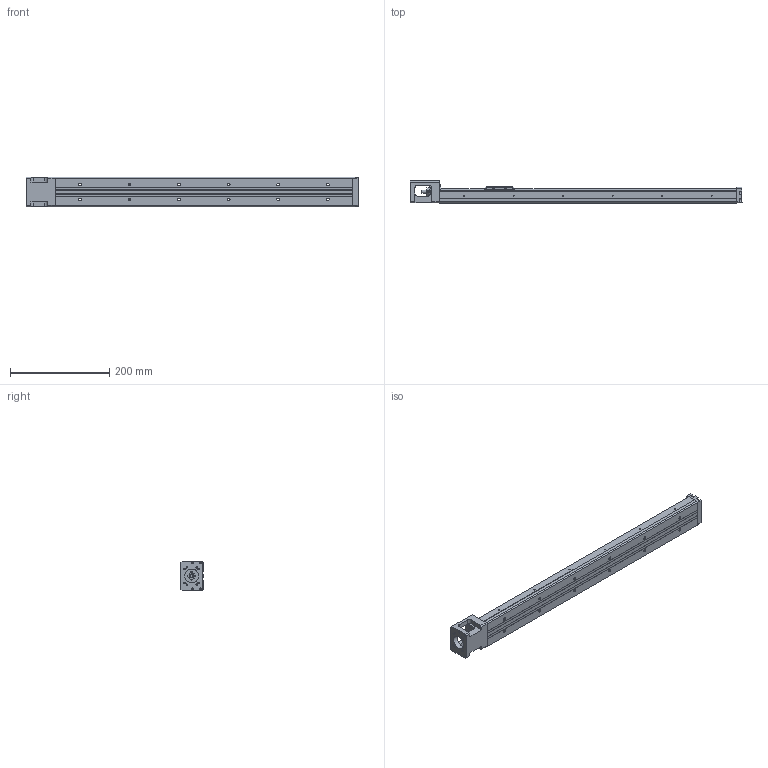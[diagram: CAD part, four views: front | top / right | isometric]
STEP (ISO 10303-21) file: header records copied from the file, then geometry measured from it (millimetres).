
FILE_DESCRIPTION(/* description */ (''),/* implementation_level */ '2;1');
FILE_NAME(/* name */ '33S-600low.stp',/* time_stamp */ '2018-02-12T11:23:46+08:00',/* author */ (''),/* organization */ (''),/* preprocessor_version */ 'ST-DEVELOPER v11',/* originating_system */ 'SIEMENS UGS NX 6.0',/* authorisation */ '');
FILE_SCHEMA (('AUTOMOTIVE_DESIGN { 1 0 10303 214 1 1 1 1 }'));
Length unit declared in the file: millimetre
Products named in the file (1): 3.069
Bounding box: 670 x 44.45 x 60 mm (x, y, z)
Volume: 676896.1 mm3; surface area: 191434.8 mm2
Topology: 5 solids, 14 shells, 657 faces, 1670 edges, 1099 vertices
Faces by surface type: plane 380, cylinder 196, bspline 31, extrusion 21, cone 20, torus 7, revolution 2
Full cylindrical faces by diameter (mm): 1.6 x4, 1.65 x4, 2.15 x6, 2.42 x4, 2.45 x2, 2.5 x16, 3.2 x4, 3.3 x4, 3.4 x4, 3.5 x10, 3.969 x1, 4 x4, 4.001 x1, 4.135 x2, 5.5 x12, 6 x5, 7.6 x1, 8 x5, 9.5 x12, 10.72 x3, 11.8 x2, 12 x6, 12.8 x1, 13 x2, 14 x1, 16 x4, 21.5 x1, 28 x1
Entity records: 35826 total; most frequent: CARTESIAN_POINT 16335, DIRECTION 2976, ORIENTED_EDGE 2896, EDGE_CURVE 1448, AXIS2_PLACEMENT_3D 1063, VERTEX_POINT 1028, EDGE_LOOP 936, VECTOR 848
